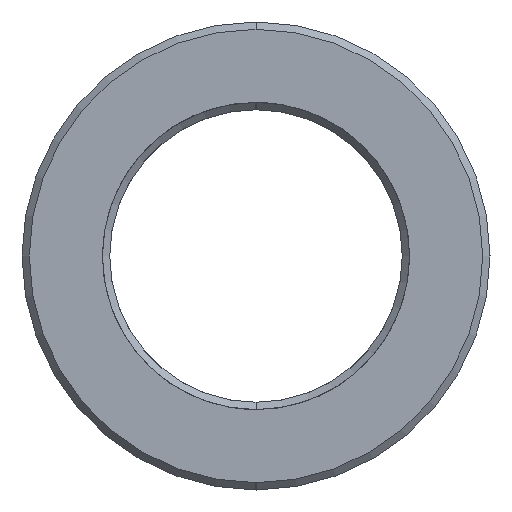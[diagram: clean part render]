
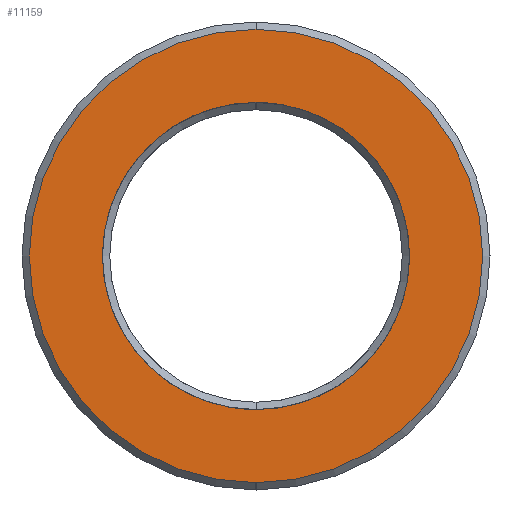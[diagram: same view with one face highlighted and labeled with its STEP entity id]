
A CAD part, left-side view. The second image highlights one B-rep face of the part: STEP entity #11159.
In plain terms, the highlighted planar face has unit normal (1, 0, 0).
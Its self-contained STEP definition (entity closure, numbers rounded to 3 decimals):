
#11076=CARTESIAN_POINT('Axis2P3D Location',(0.,0.,0.)) ;
#11081=CARTESIAN_POINT('Axis2P3D Location',(0.,0.,0.)) ;
#11085=CARTESIAN_POINT('Vertex',(0.,0.,-15.5)) ;
#11087=CARTESIAN_POINT('Vertex',(0.,0.,15.5)) ;
#11090=CARTESIAN_POINT('Axis2P3D Location',(0.,0.,0.)) ;
#11100=CARTESIAN_POINT('Control Point',(0.,0.,10.5)) ;
#11101=CARTESIAN_POINT('Control Point',(0.,0.952,10.5)) ;
#11102=CARTESIAN_POINT('Control Point',(0.,1.905,10.392)) ;
#11103=CARTESIAN_POINT('Control Point',(0.,2.841,10.176)) ;
#11104=CARTESIAN_POINT('Control Point',(0.,4.648,9.535)) ;
#11105=CARTESIAN_POINT('Control Point',(0.,6.266,8.507)) ;
#11106=CARTESIAN_POINT('Control Point',(0.,7.013,7.902)) ;
#11107=CARTESIAN_POINT('Control Point',(0.,8.356,6.535)) ;
#11108=CARTESIAN_POINT('Control Point',(0.,9.36,4.901)) ;
#11109=CARTESIAN_POINT('Control Point',(0.,9.766,4.031)) ;
#11110=CARTESIAN_POINT('Control Point',(0.,10.375,2.213)) ;
#11111=CARTESIAN_POINT('Control Point',(0.,10.561,0.305)) ;
#11112=CARTESIAN_POINT('Control Point',(0.,10.545,-0.656)) ;
#11113=CARTESIAN_POINT('Control Point',(0.,10.295,-2.557)) ;
#11114=CARTESIAN_POINT('Control Point',(0.,9.626,-4.354)) ;
#11115=CARTESIAN_POINT('Control Point',(0.,9.191,-5.21)) ;
#11116=CARTESIAN_POINT('Control Point',(0.,8.134,-6.809)) ;
#11117=CARTESIAN_POINT('Control Point',(0.,6.746,-8.131)) ;
#11118=CARTESIAN_POINT('Control Point',(0.,5.979,-8.711)) ;
#11119=CARTESIAN_POINT('Control Point',(0.,4.389,-9.649)) ;
#11120=CARTESIAN_POINT('Control Point',(0.,2.635,-10.222)) ;
#11121=CARTESIAN_POINT('Control Point',(0.,1.765,-10.407)) ;
#11122=CARTESIAN_POINT('Control Point',(0.,0.883,-10.5)) ;
#11123=CARTESIAN_POINT('Control Point',(0.,0.,-10.5)) ;
#11124=CARTESIAN_POINT('Vertex',(0.,0.,10.5)) ;
#11126=CARTESIAN_POINT('Vertex',(0.,0.,-10.5)) ;
#11130=CARTESIAN_POINT('Control Point',(0.,0.,-10.5)) ;
#11131=CARTESIAN_POINT('Control Point',(0.,-0.952,-10.5)) ;
#11132=CARTESIAN_POINT('Control Point',(0.,-1.905,-10.392)) ;
#11133=CARTESIAN_POINT('Control Point',(0.,-2.841,-10.176)) ;
#11134=CARTESIAN_POINT('Control Point',(0.,-4.648,-9.535)) ;
#11135=CARTESIAN_POINT('Control Point',(0.,-6.266,-8.507)) ;
#11136=CARTESIAN_POINT('Control Point',(0.,-7.013,-7.902)) ;
#11137=CARTESIAN_POINT('Control Point',(0.,-8.356,-6.535)) ;
#11138=CARTESIAN_POINT('Control Point',(0.,-9.36,-4.901)) ;
#11139=CARTESIAN_POINT('Control Point',(0.,-9.766,-4.031)) ;
#11140=CARTESIAN_POINT('Control Point',(0.,-10.375,-2.213)) ;
#11141=CARTESIAN_POINT('Control Point',(0.,-10.561,-0.305)) ;
#11142=CARTESIAN_POINT('Control Point',(0.,-10.545,0.656)) ;
#11143=CARTESIAN_POINT('Control Point',(0.,-10.295,2.557)) ;
#11144=CARTESIAN_POINT('Control Point',(0.,-9.626,4.354)) ;
#11145=CARTESIAN_POINT('Control Point',(0.,-9.191,5.21)) ;
#11146=CARTESIAN_POINT('Control Point',(0.,-8.134,6.809)) ;
#11147=CARTESIAN_POINT('Control Point',(0.,-6.746,8.131)) ;
#11148=CARTESIAN_POINT('Control Point',(0.,-5.979,8.711)) ;
#11149=CARTESIAN_POINT('Control Point',(0.,-4.389,9.649)) ;
#11150=CARTESIAN_POINT('Control Point',(0.,-2.635,10.222)) ;
#11151=CARTESIAN_POINT('Control Point',(0.,-1.765,10.407)) ;
#11152=CARTESIAN_POINT('Control Point',(0.,-0.883,10.5)) ;
#11153=CARTESIAN_POINT('Control Point',(0.,0.,10.5)) ;
#11077=DIRECTION('Axis2P3D Direction',(1.,0.,0.)) ;
#11078=DIRECTION('Axis2P3D XDirection',(0.,1.,0.)) ;
#11082=DIRECTION('Axis2P3D Direction',(1.,0.,0.)) ;
#11091=DIRECTION('Axis2P3D Direction',(1.,0.,0.)) ;
#11079=AXIS2_PLACEMENT_3D('Plane Axis2P3D',#11076,#11077,#11078) ;
#11083=AXIS2_PLACEMENT_3D('Circle Axis2P3D',#11081,#11082,$) ;
#11092=AXIS2_PLACEMENT_3D('Circle Axis2P3D',#11090,#11091,$) ;
#11096=ORIENTED_EDGE('',*,*,#11089,.T.) ;
#11097=ORIENTED_EDGE('',*,*,#11094,.T.) ;
#11156=ORIENTED_EDGE('',*,*,#11128,.T.) ;
#11157=ORIENTED_EDGE('',*,*,#11154,.T.) ;
#11158=FACE_BOUND('',#11155,.T.) ;
#11159=ADVANCED_FACE('MANIFOLD_SOLID_BREP #5937',(#11098,#11158),#11080,.T.) ;
#11099=B_SPLINE_CURVE_WITH_KNOTS('',5,(#11100,#11101,#11102,#11103,#11104,#11105,#11106,#11107,#11108,#11109,#11110,#11111,#11112,#11113,#11114,#11115,#11116,#11117,#11118,#11119,#11120,#11121,#11122,#11123),.UNSPECIFIED.,.F.,.U.,(6,3,3,3,3,3,3,6),(0.,6.735,13.47,20.205,26.94,33.675,40.41,46.65),.UNSPECIFIED.) ;
#11129=B_SPLINE_CURVE_WITH_KNOTS('',5,(#11130,#11131,#11132,#11133,#11134,#11135,#11136,#11137,#11138,#11139,#11140,#11141,#11142,#11143,#11144,#11145,#11146,#11147,#11148,#11149,#11150,#11151,#11152,#11153),.UNSPECIFIED.,.F.,.U.,(6,3,3,3,3,3,3,6),(0.,6.735,13.47,20.205,26.94,33.675,40.41,46.65),.UNSPECIFIED.) ;
#11084=CIRCLE('generated circle',#11083,15.5) ;
#11093=CIRCLE('generated circle',#11092,15.5) ;
#11089=EDGE_CURVE('',#11086,#11088,#11084,.T.) ;
#11094=EDGE_CURVE('',#11088,#11086,#11093,.T.) ;
#11128=EDGE_CURVE('',#11125,#11127,#11099,.T.) ;
#11154=EDGE_CURVE('',#11127,#11125,#11129,.T.) ;
#11095=EDGE_LOOP('',(#11096,#11097)) ;
#11155=EDGE_LOOP('',(#11156,#11157)) ;
#11098=FACE_OUTER_BOUND('',#11095,.T.) ;
#11080=PLANE('Plane',#11079) ;
#11086=VERTEX_POINT('',#11085) ;
#11088=VERTEX_POINT('',#11087) ;
#11125=VERTEX_POINT('',#11124) ;
#11127=VERTEX_POINT('',#11126) ;
